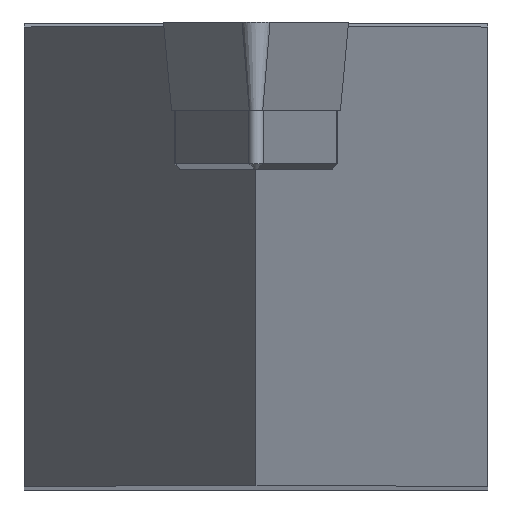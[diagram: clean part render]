
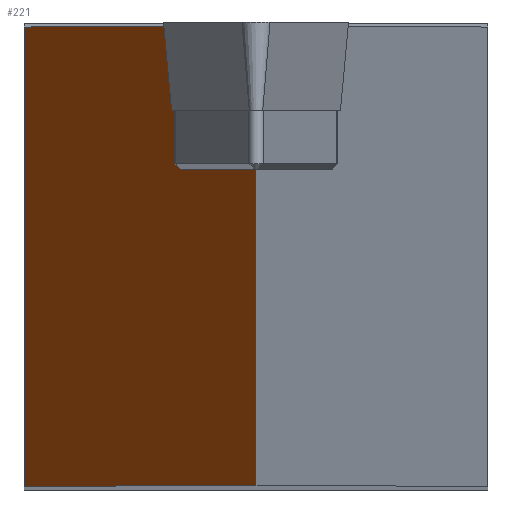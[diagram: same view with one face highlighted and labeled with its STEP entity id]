
A CAD part, top view. The second image highlights one B-rep face of the part: STEP entity #221.
In plain terms, the highlighted planar face has unit normal (-0.954, 0, 0.301).
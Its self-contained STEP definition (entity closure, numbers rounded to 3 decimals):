
#168=FACE_OUTER_BOUND('',#344,.T.);
#221=ADVANCED_FACE('',(#168),#264,.F.);
#264=PLANE('',#1160);
#344=EDGE_LOOP('',(#592,#593,#594,#595,#596,#597,#598,#599,#600,#601,#602));
#592=ORIENTED_EDGE('',*,*,#860,.T.);
#593=ORIENTED_EDGE('',*,*,#861,.T.);
#594=ORIENTED_EDGE('',*,*,#832,.F.);
#595=ORIENTED_EDGE('',*,*,#824,.T.);
#596=ORIENTED_EDGE('',*,*,#820,.F.);
#597=ORIENTED_EDGE('',*,*,#862,.T.);
#598=ORIENTED_EDGE('',*,*,#858,.T.);
#599=ORIENTED_EDGE('',*,*,#853,.F.);
#600=ORIENTED_EDGE('',*,*,#847,.T.);
#601=ORIENTED_EDGE('',*,*,#844,.F.);
#602=ORIENTED_EDGE('',*,*,#840,.F.);
#707=VERTEX_POINT('',#1616);
#708=VERTEX_POINT('',#1617);
#710=VERTEX_POINT('',#1624);
#714=VERTEX_POINT('',#1640);
#721=VERTEX_POINT('',#1655);
#722=VERTEX_POINT('',#1657);
#724=VERTEX_POINT('',#1662);
#726=VERTEX_POINT('',#1671);
#729=VERTEX_POINT('',#1680);
#733=VERTEX_POINT('',#1692);
#734=VERTEX_POINT('',#1696);
#820=EDGE_CURVE('',#707,#708,#933,.T.);
#824=EDGE_CURVE('',#710,#708,#937,.T.);
#832=EDGE_CURVE('',#710,#714,#945,.T.);
#840=EDGE_CURVE('',#721,#722,#952,.T.);
#844=EDGE_CURVE('',#722,#724,#956,.T.);
#847=EDGE_CURVE('',#726,#724,#959,.T.);
#853=EDGE_CURVE('',#726,#729,#965,.T.);
#858=EDGE_CURVE('',#733,#729,#968,.T.);
#860=EDGE_CURVE('',#721,#734,#970,.T.);
#861=EDGE_CURVE('',#734,#714,#971,.T.);
#862=EDGE_CURVE('',#707,#733,#972,.T.);
#933=LINE('',#1615,#1042);
#937=LINE('',#1623,#1046);
#945=LINE('',#1639,#1054);
#952=LINE('',#1656,#1061);
#956=LINE('',#1664,#1065);
#959=LINE('',#1670,#1068);
#965=LINE('',#1682,#1074);
#968=LINE('',#1691,#1077);
#970=LINE('',#1695,#1079);
#971=LINE('',#1697,#1080);
#972=LINE('',#1698,#1081);
#1042=VECTOR('',#1340,1.);
#1046=VECTOR('',#1346,1.);
#1054=VECTOR('',#1362,1.);
#1061=VECTOR('',#1373,1.);
#1065=VECTOR('',#1379,1.);
#1068=VECTOR('',#1386,1.);
#1074=VECTOR('',#1396,1.);
#1077=VECTOR('',#1405,1.);
#1079=VECTOR('',#1409,1.);
#1080=VECTOR('',#1410,1.);
#1081=VECTOR('',#1411,1.);
#1160=AXIS2_PLACEMENT_3D('',#1699,#1412,#1413);
#1340=DIRECTION('',(-0.301,0.,-0.954));
#1346=DIRECTION('',(0.,-1.,0.));
#1362=DIRECTION('',(0.301,0.,0.954));
#1373=DIRECTION('',(0.045,-0.989,0.144));
#1379=DIRECTION('',(0.,-1.,0.));
#1386=DIRECTION('',(-0.301,0.,-0.954));
#1396=DIRECTION('',(0.,-1.,0.));
#1405=DIRECTION('',(-0.301,0.,-0.954));
#1409=DIRECTION('',(-0.301,0.,-0.954));
#1410=DIRECTION('',(0.,1.,0.));
#1411=DIRECTION('',(0.,1.,0.));
#1412=DIRECTION('',(0.954,0.,-0.301));
#1413=DIRECTION('',(-0.301,0.,-0.954));
#1615=CARTESIAN_POINT('',(-15.491,-25.,-51.533));
#1616=CARTESIAN_POINT('',(0.,-25.,-2.4));
#1617=CARTESIAN_POINT('',(-12.5,-25.,-42.045));
#1623=CARTESIAN_POINT('',(-12.5,0.,-42.045));
#1624=CARTESIAN_POINT('',(-12.5,-0.2,-42.045));
#1639=CARTESIAN_POINT('',(-0.442,-0.2,-3.802));
#1640=CARTESIAN_POINT('',(-4.566,-0.2,-16.88));
#1655=CARTESIAN_POINT('',(-4.447,-0.5,-16.504));
#1656=CARTESIAN_POINT('',(-4.451,-0.416,-16.516));
#1657=CARTESIAN_POINT('',(-4.353,-2.56,-16.204));
#1662=CARTESIAN_POINT('',(-4.353,-4.76,-16.204));
#1664=CARTESIAN_POINT('',(-4.353,-4.76,-16.204));
#1670=CARTESIAN_POINT('',(-0.167,-4.76,-2.931));
#1671=CARTESIAN_POINT('',(-4.14,-4.76,-15.529));
#1680=CARTESIAN_POINT('',(-4.14,-7.94,-15.529));
#1682=CARTESIAN_POINT('',(-4.14,-7.94,-15.529));
#1691=CARTESIAN_POINT('',(-7.531,-7.94,-26.284));
#1692=CARTESIAN_POINT('',(0.,-7.94,-2.4));
#1695=CARTESIAN_POINT('',(-15.491,-0.5,-51.533));
#1696=CARTESIAN_POINT('',(-4.566,-0.5,-16.88));
#1697=CARTESIAN_POINT('',(-4.566,-25.,-16.88));
#1698=CARTESIAN_POINT('',(0.,-25.,-2.4));
#1699=CARTESIAN_POINT('',(-15.491,-25.,-51.533));
